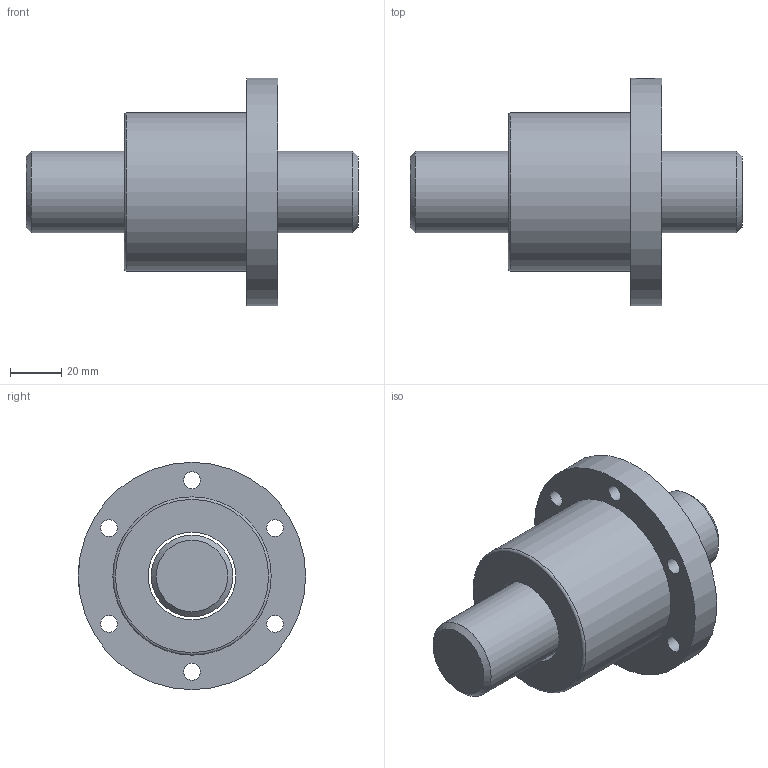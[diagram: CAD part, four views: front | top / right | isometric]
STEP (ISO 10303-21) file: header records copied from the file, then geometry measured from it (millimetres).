
FILE_DESCRIPTION (( 'STEP AP203' ), '1' );
FILE_NAME ('SFV03206-4.8.STEP', '2023-07-26T08:29:26', ( '' ), ( '' ), 'SwSTEP 2.0', 'SolidWorks 2022', '' );
FILE_SCHEMA (( 'CONFIG_CONTROL_DESIGN' ));
Length unit declared in the file: millimetre
Products named in the file (1): SFV03206-4.8
Bounding box: 130 x 89 x 89 mm (x, y, z)
Volume: 262832.4 mm3; surface area: 46218.4 mm2
Topology: 2 solids, 2 shells, 44 faces, 96 edges, 63 vertices
Faces by surface type: cylinder 25, plane 12, cone 3, bspline 3, torus 1
Full cylindrical faces by diameter (mm): 4 x1, 6.6 x6, 6.917 x7, 11 x6, 32 x1, 34.3 x1, 62 x1, 89 x1
Entity records: 2118 total; most frequent: CARTESIAN_POINT 1334, DIRECTION 148, ORIENTED_EDGE 100, EDGE_LOOP 82, AXIS2_PLACEMENT_3D 72, FACE_OUTER_BOUND 56, EDGE_CURVE 50, VERTEX_POINT 46
